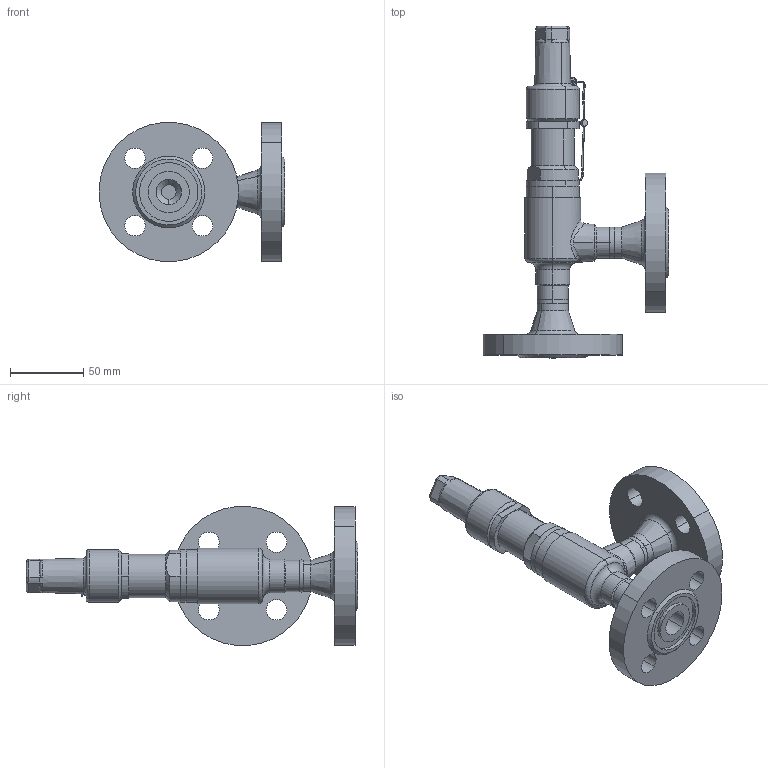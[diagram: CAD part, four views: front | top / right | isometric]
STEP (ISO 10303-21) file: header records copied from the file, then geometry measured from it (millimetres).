
FILE_DESCRIPTION (( 'STEP AP214' ), '1' );
FILE_NAME ('SVUA 44820C10-DN15-15_DIN-FL.STEP', '2010-09-07T14:00:07', ( 'Eckhard Grams' ), ( 'AWP Kälte Klima Armaturen GmbH' ), 'SwSTEP 2.0', 'SolidWorks 2002296', '' );
FILE_SCHEMA (( 'AUTOMOTIVE_DESIGN' ));
Length unit declared in the file: millimetre
Products named in the file (11): SVUA 44820C10-DN15-15_DIN-FL; Geh,kpl 42220E10-DN15-15_DIN-FL_PS40_Standard; Gehäuse42200E10-DN15-15_PS40_R1_Standard; bead Geh.kpl 42220-10-2_Standard; bead Geh.kpl 42220-10-1_Standard; Flansch-DIN2635-Nut_PS40_DIN-Flansch-DN015_PS40-Nut; Deckel 44551-07-DN 8-15_PS40_Standard; Klemmring 44551-07-DN 8-15_Standard; Einstellschr 44551-07-8080002_DN 8-15_Standard; Blombe-Schnur_Standard; Kappe 36302-10_DN6-15 (M27x1)_Standard
Assembly tree (11 placements, depth 3):
  SVUA 44820C10-DN15-15_DIN-FL
    Blombe-Schnur_Standard
    Kappe 36302-10_DN6-15 (M27x1)_Standard
    Deckel 44551-07-DN 8-15_PS40_Standard
    Klemmring 44551-07-DN 8-15_Standard
    Geh,kpl 42220E10-DN15-15_DIN-FL_PS40_Standard
      Flansch-DIN2635-Nut_PS40_DIN-Flansch-DN015_PS40-Nut  x2
      bead Geh.kpl 42220-10-1_Standard
      Gehäuse42200E10-DN15-15_PS40_R1_Standard
      bead Geh.kpl 42220-10-2_Standard
    Einstellschr 44551-07-8080002_DN 8-15_Standard
Bounding box: 126.32 x 226 x 94.64 mm (x, y, z)
Volume: 300766.2 mm3; surface area: 94158.4 mm2
Topology: 10 solids, 10 shells, 320 faces, 715 edges, 433 vertices
Faces by surface type: cylinder 130, plane 64, cone 59, torus 36, bspline 31
Entity records: 24093 total; most frequent: CARTESIAN_POINT 16682, DIRECTION 1393, ORIENTED_EDGE 1286, EDGE_CURVE 643, AXIS2_PLACEMENT_3D 595, VERTEX_POINT 387, EDGE_LOOP 330, CIRCLE 323
